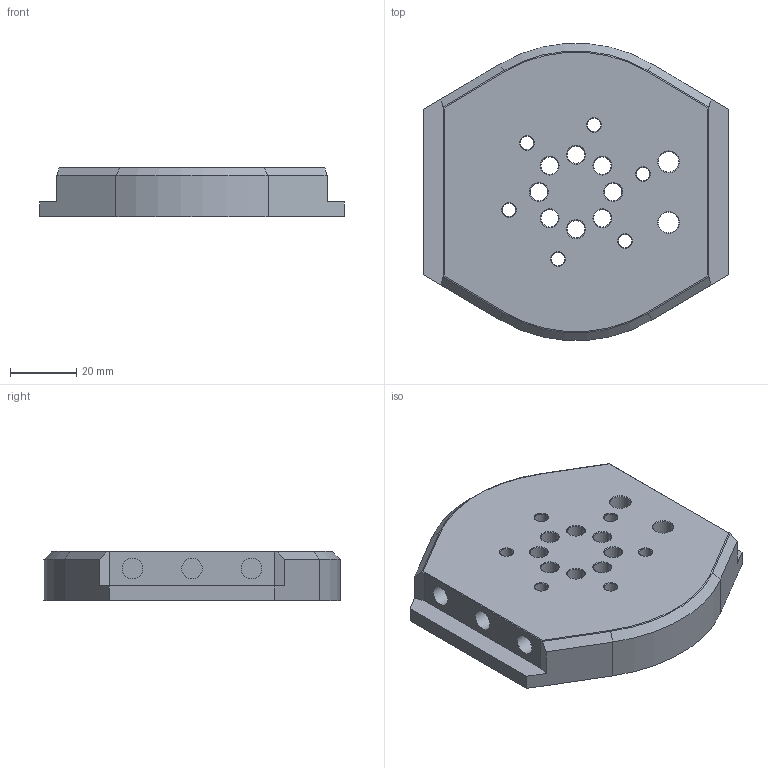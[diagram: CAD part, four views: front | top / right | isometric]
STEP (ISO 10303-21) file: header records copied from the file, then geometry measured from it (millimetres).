
FILE_DESCRIPTION(/* description */ (''),/* implementation_level */ '2;1');
FILE_NAME(/* name */ 'shoulder-plate.step',/* time_stamp */ '2026-06-03T23:45:00+01:00',/* author */ (''),/* organization */ (''),/* preprocessor_version */ 'ST-DEVELOPER v20.1',/* originating_system */ 'Autodesk Translation Framework v15.8.0.0',/* authorisation */ '');
FILE_SCHEMA (('AUTOMOTIVE_DESIGN { 1 0 10303 214 3 1 1 }'));
Length unit declared in the file: millimetre
Products named in the file (2): shoulder-plate; Component2
Assembly tree (1 placements, depth 2):
  shoulder-plate
    Component2
Bounding box: 92 x 89.74 x 15 mm (x, y, z)
Volume: 87386.7 mm3; surface area: 23458.4 mm2
Topology: 1 solids, 1 shells, 80 faces, 191 edges, 118 vertices
Faces by surface type: plane 36, cylinder 24, cone 20
Full cylindrical faces by diameter (mm): 4 x6, 5.3 x8, 6.2 x8
Entity records: 2436 total; most frequent: DIRECTION 425, CARTESIAN_POINT 409, ORIENTED_EDGE 382, EDGE_CURVE 191, AXIS2_PLACEMENT_3D 152, LINE 121, VECTOR 121, EDGE_LOOP 119
